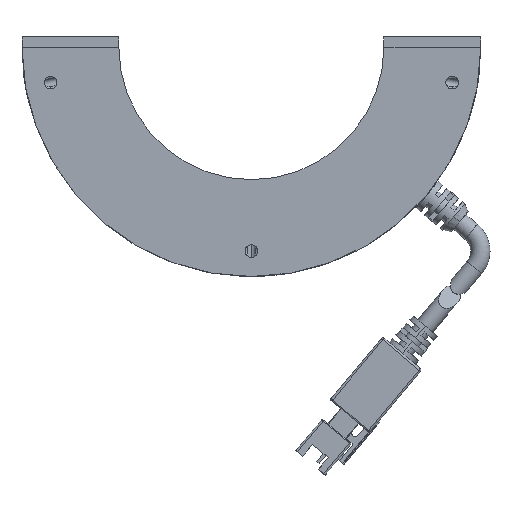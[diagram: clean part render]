
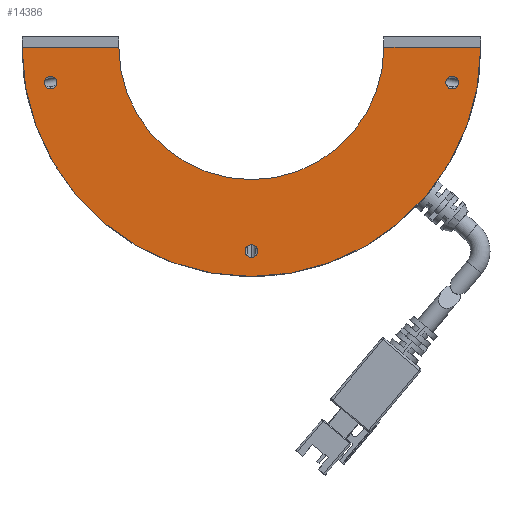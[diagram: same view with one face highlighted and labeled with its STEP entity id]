
A CAD part, front view. The second image highlights one B-rep face of the part: STEP entity #14386.
In plain terms, the highlighted planar face has unit normal (0, -1, 0).
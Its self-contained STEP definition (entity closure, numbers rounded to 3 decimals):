
#215 = ORIENTED_EDGE ( 'NONE', *, *, #14608, .F. ) ;
#334 = CARTESIAN_POINT ( 'NONE',  ( 0., 0., -40. ) ) ;
#517 = DIRECTION ( 'NONE',  ( 0., -1., 0. ) ) ;
#546 = EDGE_CURVE ( 'NONE', #1776, #12547, #5946, .T. ) ;
#782 = EDGE_CURVE ( 'NONE', #12547, #6802, #9175, .T. ) ;
#874 = CARTESIAN_POINT ( 'NONE',  ( 0., 0., 0. ) ) ;
#1200 = CIRCLE ( 'NONE', #8859, 26. ) ;
#1528 = DIRECTION ( 'NONE',  ( 0., 0., -1. ) ) ;
#1529 = DIRECTION ( 'NONE',  ( 0., -1., 0. ) ) ;
#1776 = VERTEX_POINT ( 'NONE', #4656 ) ;
#1939 = VERTEX_POINT ( 'NONE', #12308 ) ;
#2412 = EDGE_CURVE ( 'NONE', #1776, #5000, #1200, .T. ) ;
#2713 = ORIENTED_EDGE ( 'NONE', *, *, #2412, .F. ) ;
#2813 = VECTOR ( 'NONE', #12694, 1000. ) ;
#3089 = EDGE_CURVE ( 'NONE', #5000, #6802, #4885, .T. ) ;
#3360 = CIRCLE ( 'NONE', #10088, 1.25 ) ;
#3644 = CIRCLE ( 'NONE', #11591, 1.25 ) ;
#3651 = CARTESIAN_POINT ( 'NONE',  ( -39.392, 0., -6.946 ) ) ;
#3956 = CARTESIAN_POINT ( 'NONE',  ( 26., 0., 0. ) ) ;
#4146 = DIRECTION ( 'NONE',  ( 0., -1., 0. ) ) ;
#4199 = AXIS2_PLACEMENT_3D ( 'NONE', #13189, #6103, #14367 ) ;
#4242 = DIRECTION ( 'NONE',  ( 0., -1., 0. ) ) ;
#4356 = VERTEX_POINT ( 'NONE', #11816 ) ;
#4377 = CIRCLE ( 'NONE', #8406, 1.25 ) ;
#4476 = CARTESIAN_POINT ( 'NONE',  ( 45., 0., 0. ) ) ;
#4480 = CARTESIAN_POINT ( 'NONE',  ( -45., 0., 0. ) ) ;
#4482 = CIRCLE ( 'NONE', #6749, 1.25 ) ;
#4656 = CARTESIAN_POINT ( 'NONE',  ( -26., 0., 0. ) ) ;
#4734 = CARTESIAN_POINT ( 'NONE',  ( 39.392, 0., -5.696 ) ) ;
#4832 = DIRECTION ( 'NONE',  ( 0., 0., -1. ) ) ;
#4885 = LINE ( 'NONE', #11159, #8009 ) ;
#5000 = VERTEX_POINT ( 'NONE', #3956 ) ;
#5121 = DIRECTION ( 'NONE',  ( 1., 0., 0. ) ) ;
#5599 = FACE_OUTER_BOUND ( 'NONE', #14774, .T. ) ;
#5912 = EDGE_CURVE ( 'NONE', #8609, #4356, #3360, .T. ) ;
#5946 = LINE ( 'NONE', #874, #2813 ) ;
#5965 = FACE_BOUND ( 'NONE', #8016, .T. ) ;
#6103 = DIRECTION ( 'NONE',  ( 0., -1., 0. ) ) ;
#6129 = CIRCLE ( 'NONE', #4199, 1.25 ) ;
#6234 = AXIS2_PLACEMENT_3D ( 'NONE', #334, #8624, #1528 ) ;
#6630 = DIRECTION ( 'NONE',  ( 0., -1., 0. ) ) ;
#6749 = AXIS2_PLACEMENT_3D ( 'NONE', #7585, #517, #8801 ) ;
#6756 = DIRECTION ( 'NONE',  ( 0., -1., 0. ) ) ;
#6802 = VERTEX_POINT ( 'NONE', #4476 ) ;
#7206 = CARTESIAN_POINT ( 'NONE',  ( 0., 0., -41.25 ) ) ;
#7509 = VERTEX_POINT ( 'NONE', #9433 ) ;
#7585 = CARTESIAN_POINT ( 'NONE',  ( 39.392, 0., -6.946 ) ) ;
#8009 = VECTOR ( 'NONE', #8789, 1000. ) ;
#8016 = EDGE_LOOP ( 'NONE', ( #8074, #9547 ) ) ;
#8074 = ORIENTED_EDGE ( 'NONE', *, *, #12397, .F. ) ;
#8406 = AXIS2_PLACEMENT_3D ( 'NONE', #11225, #4146, #12378 ) ;
#8609 = VERTEX_POINT ( 'NONE', #11969 ) ;
#8617 = CIRCLE ( 'NONE', #6234, 1.25 ) ;
#8623 = EDGE_LOOP ( 'NONE', ( #215, #10337 ) ) ;
#8624 = DIRECTION ( 'NONE',  ( 0., -1., 0. ) ) ;
#8749 = FACE_BOUND ( 'NONE', #11809, .T. ) ;
#8789 = DIRECTION ( 'NONE',  ( 1., 0., 0. ) ) ;
#8801 = DIRECTION ( 'NONE',  ( 0., 0., -1. ) ) ;
#8859 = AXIS2_PLACEMENT_3D ( 'NONE', #11004, #1529, #5121 ) ;
#9068 = DIRECTION ( 'NONE',  ( 1., 0., 0. ) ) ;
#9175 = CIRCLE ( 'NONE', #11410, 45. ) ;
#9412 = VERTEX_POINT ( 'NONE', #7206 ) ;
#9433 = CARTESIAN_POINT ( 'NONE',  ( 0., 0., -38.75 ) ) ;
#9547 = ORIENTED_EDGE ( 'NONE', *, *, #15278, .F. ) ;
#10088 = AXIS2_PLACEMENT_3D ( 'NONE', #3651, #11896, #4832 ) ;
#10337 = ORIENTED_EDGE ( 'NONE', *, *, #5912, .F. ) ;
#10436 = ORIENTED_EDGE ( 'NONE', *, *, #782, .T. ) ;
#10546 = VERTEX_POINT ( 'NONE', #4734 ) ;
#11004 = CARTESIAN_POINT ( 'NONE',  ( 0., 0., 0. ) ) ;
#11159 = CARTESIAN_POINT ( 'NONE',  ( 0., 0., 0. ) ) ;
#11225 = CARTESIAN_POINT ( 'NONE',  ( 0., 0., -40. ) ) ;
#11305 = CARTESIAN_POINT ( 'NONE',  ( 39.392, 0., -6.946 ) ) ;
#11410 = AXIS2_PLACEMENT_3D ( 'NONE', #13841, #6756, #14992 ) ;
#11591 = AXIS2_PLACEMENT_3D ( 'NONE', #11305, #4242, #12489 ) ;
#11615 = AXIS2_PLACEMENT_3D ( 'NONE', #14926, #6630, #9068 ) ;
#11809 = EDGE_LOOP ( 'NONE', ( #12941, #12670 ) ) ;
#11816 = CARTESIAN_POINT ( 'NONE',  ( -39.392, 0., -8.196 ) ) ;
#11896 = DIRECTION ( 'NONE',  ( 0., -1., 0. ) ) ;
#11969 = CARTESIAN_POINT ( 'NONE',  ( -39.392, 0., -5.696 ) ) ;
#12308 = CARTESIAN_POINT ( 'NONE',  ( 39.392, 0., -8.196 ) ) ;
#12343 = EDGE_CURVE ( 'NONE', #9412, #7509, #4377, .T. ) ;
#12378 = DIRECTION ( 'NONE',  ( 0., 0., -1. ) ) ;
#12397 = EDGE_CURVE ( 'NONE', #1939, #10546, #3644, .T. ) ;
#12489 = DIRECTION ( 'NONE',  ( 0., 0., -1. ) ) ;
#12547 = VERTEX_POINT ( 'NONE', #4480 ) ;
#12598 = FACE_BOUND ( 'NONE', #8623, .T. ) ;
#12670 = ORIENTED_EDGE ( 'NONE', *, *, #12773, .F. ) ;
#12694 = DIRECTION ( 'NONE',  ( -1., 0., 0. ) ) ;
#12773 = EDGE_CURVE ( 'NONE', #7509, #9412, #8617, .T. ) ;
#12941 = ORIENTED_EDGE ( 'NONE', *, *, #12343, .F. ) ;
#13189 = CARTESIAN_POINT ( 'NONE',  ( -39.392, 0., -6.946 ) ) ;
#13302 = ORIENTED_EDGE ( 'NONE', *, *, #3089, .F. ) ;
#13775 = PLANE ( 'NONE',  #11615 ) ;
#13841 = CARTESIAN_POINT ( 'NONE',  ( 0., 0., 0. ) ) ;
#14367 = DIRECTION ( 'NONE',  ( 0., 0., -1. ) ) ;
#14386 = ADVANCED_FACE ( 'NONE', ( #5965, #8749, #12598, #5599 ), #13775, .T. ) ;
#14608 = EDGE_CURVE ( 'NONE', #4356, #8609, #6129, .T. ) ;
#14774 = EDGE_LOOP ( 'NONE', ( #10436, #13302, #2713, #15302 ) ) ;
#14926 = CARTESIAN_POINT ( 'NONE',  ( 0., 0., 0. ) ) ;
#14992 = DIRECTION ( 'NONE',  ( 1., 0., 0. ) ) ;
#15278 = EDGE_CURVE ( 'NONE', #10546, #1939, #4482, .T. ) ;
#15302 = ORIENTED_EDGE ( 'NONE', *, *, #546, .T. ) ;
